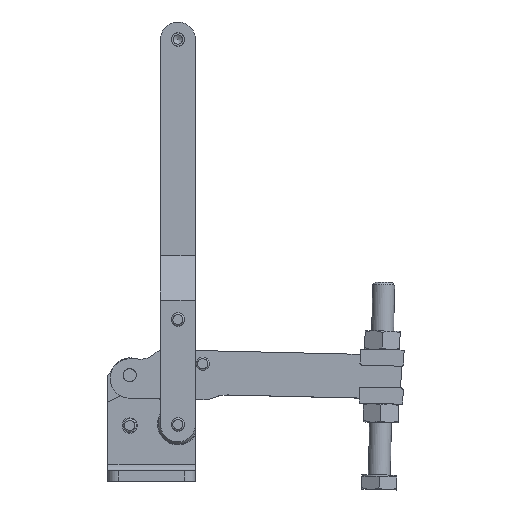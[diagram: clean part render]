
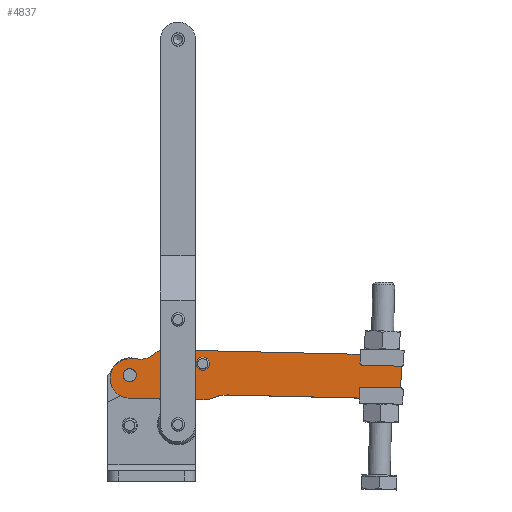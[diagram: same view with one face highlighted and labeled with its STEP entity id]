
A CAD part, top view. The second image highlights one B-rep face of the part: STEP entity #4837.
In plain terms, the highlighted planar face has unit normal (0, 0, 1).
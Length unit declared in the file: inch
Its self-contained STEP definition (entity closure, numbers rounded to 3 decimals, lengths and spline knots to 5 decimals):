
#120=LINE('',#7403,#404);
#122=LINE('',#7406,#406);
#123=LINE('',#7408,#407);
#124=LINE('',#7414,#408);
#125=LINE('',#7418,#409);
#404=VECTOR('',#5872,2.41291);
#406=VECTOR('',#5876,0.49912);
#407=VECTOR('',#5877,3.312);
#408=VECTOR('',#5882,0.15288);
#409=VECTOR('',#5885,1.038);
#727=PLANE('',#5205);
#1028=FACE_BOUND('',#1517,.T.);
#1029=FACE_BOUND('',#1518,.T.);
#1030=FACE_BOUND('',#1519,.T.);
#1179=FACE_OUTER_BOUND('',#1516,.T.);
#1516=EDGE_LOOP('',(#3468,#3469,#3470,#3471,#3472,#3473,#3474,#3475,#3476,
#3477,#3478,#3479));
#1517=EDGE_LOOP('',(#3480));
#1518=EDGE_LOOP('',(#3481));
#1519=EDGE_LOOP('',(#3482));
#1974=CIRCLE('',#5187,0.094);
#1976=CIRCLE('',#5190,0.095);
#1978=CIRCLE('',#5193,0.095);
#1980=CIRCLE('',#5196,0.438);
#1982=CIRCLE('',#5199,0.063);
#1984=CIRCLE('',#5202,0.063);
#1986=CIRCLE('',#5206,0.25);
#1987=CIRCLE('',#5207,0.25);
#1988=CIRCLE('',#5208,0.281);
#1989=CIRCLE('',#5209,0.438);
#2280=VERTEX_POINT('',#7361);
#2282=VERTEX_POINT('',#7366);
#2284=VERTEX_POINT('',#7371);
#2286=VERTEX_POINT('',#7376);
#2287=VERTEX_POINT('',#7377);
#2290=VERTEX_POINT('',#7385);
#2291=VERTEX_POINT('',#7386);
#2294=VERTEX_POINT('',#7394);
#2295=VERTEX_POINT('',#7395);
#2298=VERTEX_POINT('',#7407);
#2299=VERTEX_POINT('',#7409);
#2300=VERTEX_POINT('',#7411);
#2301=VERTEX_POINT('',#7413);
#2302=VERTEX_POINT('',#7415);
#2303=VERTEX_POINT('',#7417);
#2758=EDGE_CURVE('',#2280,#2280,#1974,.T.);
#2760=EDGE_CURVE('',#2282,#2282,#1976,.T.);
#2762=EDGE_CURVE('',#2284,#2284,#1978,.T.);
#2764=EDGE_CURVE('',#2286,#2287,#1980,.T.);
#2768=EDGE_CURVE('',#2290,#2291,#1982,.T.);
#2772=EDGE_CURVE('',#2294,#2295,#1984,.T.);
#2776=EDGE_CURVE('',#2286,#2295,#120,.T.);
#2778=EDGE_CURVE('',#2294,#2291,#122,.T.);
#2779=EDGE_CURVE('',#2290,#2298,#123,.T.);
#2780=EDGE_CURVE('',#2298,#2299,#1986,.T.);
#2781=EDGE_CURVE('',#2299,#2300,#1987,.T.);
#2782=EDGE_CURVE('',#2300,#2301,#124,.T.);
#2783=EDGE_CURVE('',#2301,#2302,#1988,.T.);
#2784=EDGE_CURVE('',#2302,#2303,#125,.T.);
#2785=EDGE_CURVE('',#2303,#2287,#1989,.T.);
#3468=ORIENTED_EDGE('',*,*,#2772,.F.);
#3469=ORIENTED_EDGE('',*,*,#2778,.T.);
#3470=ORIENTED_EDGE('',*,*,#2768,.F.);
#3471=ORIENTED_EDGE('',*,*,#2779,.T.);
#3472=ORIENTED_EDGE('',*,*,#2780,.T.);
#3473=ORIENTED_EDGE('',*,*,#2781,.T.);
#3474=ORIENTED_EDGE('',*,*,#2782,.T.);
#3475=ORIENTED_EDGE('',*,*,#2783,.T.);
#3476=ORIENTED_EDGE('',*,*,#2784,.T.);
#3477=ORIENTED_EDGE('',*,*,#2785,.T.);
#3478=ORIENTED_EDGE('',*,*,#2764,.F.);
#3479=ORIENTED_EDGE('',*,*,#2776,.T.);
#3480=ORIENTED_EDGE('',*,*,#2762,.T.);
#3481=ORIENTED_EDGE('',*,*,#2760,.T.);
#3482=ORIENTED_EDGE('',*,*,#2758,.T.);
#4837=ADVANCED_FACE('',(#1179,#1028,#1029,#1030),#727,.F.);
#5187=AXIS2_PLACEMENT_3D('',#7362,#5830,#5831);
#5190=AXIS2_PLACEMENT_3D('',#7367,#5836,#5837);
#5193=AXIS2_PLACEMENT_3D('',#7372,#5842,#5843);
#5196=AXIS2_PLACEMENT_3D('',#7378,#5848,#5849);
#5199=AXIS2_PLACEMENT_3D('',#7387,#5856,#5857);
#5202=AXIS2_PLACEMENT_3D('',#7396,#5864,#5865);
#5205=AXIS2_PLACEMENT_3D('',#7405,#5874,#5875);
#5206=AXIS2_PLACEMENT_3D('',#7410,#5878,#5879);
#5207=AXIS2_PLACEMENT_3D('',#7412,#5880,#5881);
#5208=AXIS2_PLACEMENT_3D('',#7416,#5883,#5884);
#5209=AXIS2_PLACEMENT_3D('',#7419,#5886,#5887);
#5830=DIRECTION('center_axis',(0.,0.,-1.));
#5831=DIRECTION('ref_axis',(1.,-0.023,0.));
#5836=DIRECTION('center_axis',(0.,0.,-1.));
#5837=DIRECTION('ref_axis',(1.,-0.023,0.));
#5842=DIRECTION('center_axis',(0.,0.,-1.));
#5843=DIRECTION('ref_axis',(1.,-0.023,0.));
#5848=DIRECTION('center_axis',(0.,0.,1.));
#5849=DIRECTION('ref_axis',(-0.188,0.982,0.));
#5856=DIRECTION('center_axis',(0.,0.,-1.));
#5857=DIRECTION('ref_axis',(0.723,0.69,0.));
#5864=DIRECTION('center_axis',(0.,0.,-1.));
#5865=DIRECTION('ref_axis',(0.69,-0.723,0.));
#5872=DIRECTION('',(1.,-0.023,0.));
#5874=DIRECTION('center_axis',(0.,0.,-1.));
#5875=DIRECTION('ref_axis',(-1.,0.023,0.));
#5876=DIRECTION('',(0.023,1.,0.));
#5877=DIRECTION('',(-1.,0.023,0.));
#5878=DIRECTION('center_axis',(0.,0.,1.));
#5879=DIRECTION('ref_axis',(0.714,-0.7,0.));
#5880=DIRECTION('center_axis',(0.,0.,-1.));
#5881=DIRECTION('ref_axis',(0.641,-0.768,0.));
#5882=DIRECTION('',(-1.,0.023,0.));
#5883=DIRECTION('center_axis',(0.,0.,1.));
#5884=DIRECTION('ref_axis',(0.023,1.,0.));
#5885=DIRECTION('',(1.,-0.023,0.));
#5886=DIRECTION('center_axis',(0.,0.,1.));
#5887=DIRECTION('ref_axis',(-0.55,0.835,0.));
#7361=CARTESIAN_POINT('',(-0.14412,3.58329,1.13545));
#7362=CARTESIAN_POINT('Origin',(-0.05014,3.5811,1.13545));
#7366=CARTESIAN_POINT('',(-1.18718,3.42047,1.13545));
#7367=CARTESIAN_POINT('Origin',(-1.09221,3.41827,1.13545));
#7371=CARTESIAN_POINT('',(-0.49793,3.46648,1.13545));
#7372=CARTESIAN_POINT('Origin',(-0.40295,3.46427,1.13545));
#7376=CARTESIAN_POINT('',(0.3007,3.13572,1.13545));
#7377=CARTESIAN_POINT('',(0.1193,3.10098,1.13545));
#7378=CARTESIAN_POINT('Origin',(0.29052,2.69784,1.13545));
#7385=CARTESIAN_POINT('',(2.72748,3.70461,1.13545));
#7386=CARTESIAN_POINT('',(2.789,3.64017,1.13545));
#7387=CARTESIAN_POINT('Origin',(2.72601,3.64163,1.13545));
#7394=CARTESIAN_POINT('',(2.7774,3.14119,1.13545));
#7395=CARTESIAN_POINT('',(2.71296,3.07967,1.13545));
#7396=CARTESIAN_POINT('Origin',(2.71442,3.14265,1.13545));
#7403=CARTESIAN_POINT('',(0.3007,3.13572,1.13545));
#7405=CARTESIAN_POINT('Origin',(0.76782,3.41257,1.13545));
#7406=CARTESIAN_POINT('',(2.7774,3.14119,1.13545));
#7407=CARTESIAN_POINT('',(-0.58363,3.78155,1.13545));
#7408=CARTESIAN_POINT('',(2.72748,3.70461,1.13545));
#7409=CARTESIAN_POINT('',(-0.76798,3.70661,1.13545));
#7410=CARTESIAN_POINT('Origin',(-0.58944,3.53162,1.13545));
#7411=CARTESIAN_POINT('',(-0.93393,3.64865,1.13545));
#7412=CARTESIAN_POINT('Origin',(-0.92812,3.89859,1.13545));
#7413=CARTESIAN_POINT('',(-1.08677,3.6522,1.13545));
#7414=CARTESIAN_POINT('',(-0.93393,3.64865,1.13545));
#7415=CARTESIAN_POINT('',(-1.09983,3.09036,1.13545));
#7416=CARTESIAN_POINT('Origin',(-1.0933,3.37128,1.13545));
#7417=CARTESIAN_POINT('',(-0.06211,3.06624,1.13545));
#7418=CARTESIAN_POINT('',(-1.09983,3.09036,1.13545));
#7419=CARTESIAN_POINT('Origin',(-0.05193,3.50413,1.13545));
